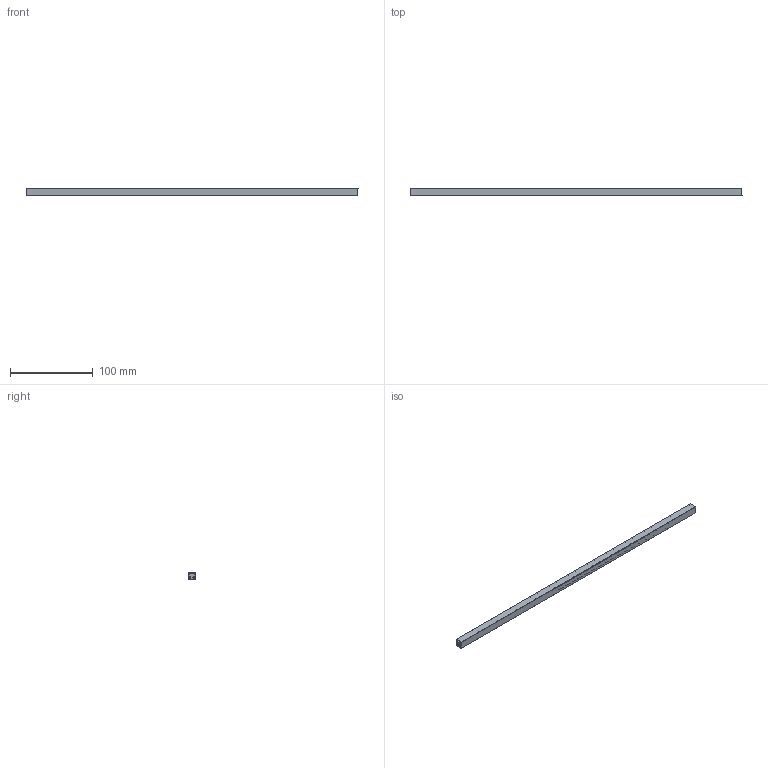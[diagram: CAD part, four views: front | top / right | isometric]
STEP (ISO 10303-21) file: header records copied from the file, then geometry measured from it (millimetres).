
FILE_DESCRIPTION (( 'STEP AP203' ), '1' );
FILE_NAME ('Line .STEP', '2024-04-02T06:10:07', ( '' ), ( '' ), 'SwSTEP 2.0', 'SolidWorks 2021', '' );
FILE_SCHEMA (( 'CONFIG_CONTROL_DESIGN' ));
Length unit declared in the file: millimetre
Products named in the file (1): Line 
Bounding box: 400.31 x 9 x 9.12 mm (x, y, z)
Volume: 18682.1 mm3; surface area: 37348.6 mm2
Topology: 5 solids, 5 shells, 314 faces, 939 edges, 635 vertices
Faces by surface type: plane 314
Entity records: 10456 total; most frequent: CARTESIAN_POINT 1913, ORIENTED_EDGE 1878, DIRECTION 1561, EDGE_CURVE 939, LINE 931, VECTOR 931, VERTEX_POINT 635, AXIS2_PLACEMENT_3D 315
